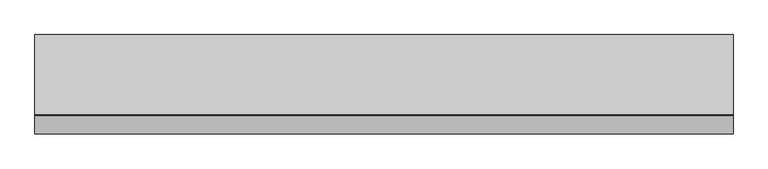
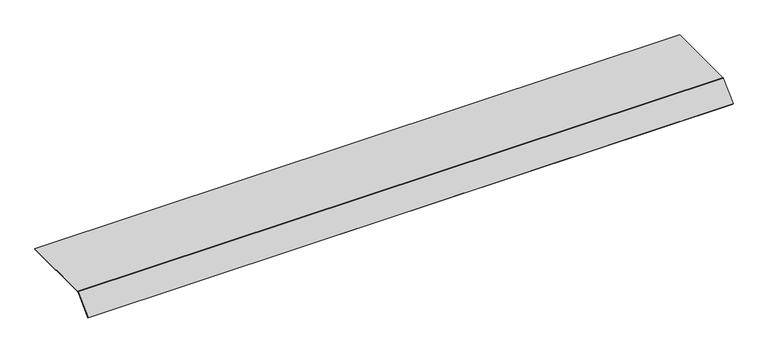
"""IFC4 building model written with IfcOpenShell, lengths in millimetres: proxy geometry, Electrical_Installation_Hager_Blank-Cover-800mm-Single-Sided-Height-70mm : Electrical_Installation_Hager_Blank-Cover-800mm-Single-Sided-Height-70mm."""

from ifc_helpers import new_model, si_unit, point, frame, frame_2d, origin, place, context, project, spatial, polyline, circle_curve, trimmed, segment, composite_curve, outline, extrude, source, transform, mapped, element, save


def electrical_fixtures_87b274da(model_context):
    return source(origin(), model_context, "Body", "SweptSolid", [
        extrude(outline(composite_curve([segment(polyline([(150.0, 40.5), (150.0, 37.5), (-149.8229541, 37.5)]), True, "CONTINUOUS"), segment(trimmed(circle_curve(frame_2d((-149.8229541, 36.0725733)), 1.4274267), [point((-149.8229541, 37.5))], [point((-150.8322972, 37.0819164))], True, "CARTESIAN"), True, "CONTINUOUS"), segment(polyline([(-150.8322972, 37.0819164), (-218.6627596, -30.7485461), (-220.78408, -28.6272257), (-152.8206472, 39.336207)]), True, "CONTINUOUS"), segment(trimmed(circle_curve(frame_2d((-150.0110025, 36.5265623)), 3.9734377), [point((-152.8206472, 39.336207))], [point((-150.0110025, 40.5))], False, "CARTESIAN"), True, "CONTINUOUS"), segment(polyline([(-150.0110025, 40.5), (150.0, 40.5)]), True, "CONTINUOUS")], self_intersect=False)), frame((0.0, 0.0, 0.0), z_axis=(1.0, 0.0, 0.0), x_axis=(0.0, 1.0, 0.0)), (0.0, 0.0, 1.0), 2600.0),
    ])


if __name__ == "__main__":
    model = new_model("IFC4")
    model_context = context("Model", 3, world=origin())
    ifc_project = project(units=[si_unit("LENGTHUNIT", "METRE", prefix="MILLI")], contexts=[model_context])
    site = spatial("IfcSite", under=ifc_project)
    building = spatial("IfcBuilding", under=site)
    placement = place(None, origin())
    electrical_fixtures_shape = electrical_fixtures_87b274da(model_context)
    element("IfcBuildingElementProxy", 1, Name="Electrical_Installation_Hager_Blank-Cover-800mm-Single-Sided-Height-70mm : Electrical_Installation_Hager_Blank-Cover-800mm-Single-Sided-Height-70mm", ObjectType="Electrical_Installation_Hager_Blank-Cover-800mm-Single-Sided-Height-70mm : Electrical_Installation_Hager_Blank-Cover-800mm-Single-Sided-Height-70mm", at=placement, inside=building, context=model_context, shape_type="MappedRepresentation", body=[
        mapped(electrical_fixtures_shape, transform((0.0, 0.0, 0.0), x_axis=(1.0, 0.0, 0.0), y_axis=(0.0, 1.0, 0.0), z_axis=(0.0, 0.0, 1.0))),
    ])
    save(model, "model.ifc")
